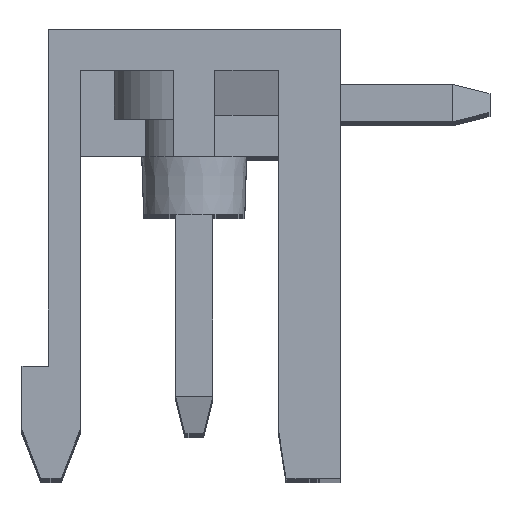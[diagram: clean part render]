
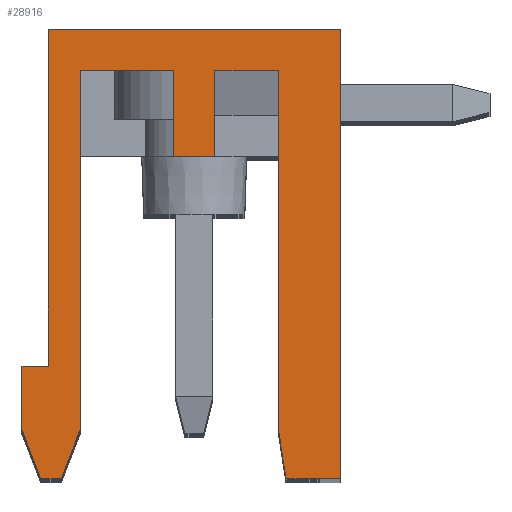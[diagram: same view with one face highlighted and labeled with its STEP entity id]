
A CAD part, top view. The second image highlights one B-rep face of the part: STEP entity #28916.
In plain terms, the highlighted planar face has unit normal (0, 0, 1).
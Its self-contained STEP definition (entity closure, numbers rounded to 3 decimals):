
#130 = CARTESIAN_POINT ( 'NONE',  ( -3.9, 12., 66.04 ) ) ;
#516 = EDGE_CURVE ( 'NONE', #10233, #29486, #24083, .T. ) ;
#526 = ORIENTED_EDGE ( 'NONE', *, *, #22341, .F. ) ;
#878 = ORIENTED_EDGE ( 'NONE', *, *, #7099, .T. ) ;
#993 = CARTESIAN_POINT ( 'NONE',  ( 0.55, 8.6, 66.04 ) ) ;
#1429 = ORIENTED_EDGE ( 'NONE', *, *, #7352, .T. ) ;
#1719 = DIRECTION ( 'NONE',  ( -1., 0., 0. ) ) ;
#1763 = CARTESIAN_POINT ( 'NONE',  ( -0.55, 10.9, 66.04 ) ) ;
#1899 = DIRECTION ( 'NONE',  ( -1., 0., 0. ) ) ;
#1931 = EDGE_CURVE ( 'NONE', #6937, #12073, #3518, .T. ) ;
#2378 = VERTEX_POINT ( 'NONE', #26846 ) ;
#2801 = CARTESIAN_POINT ( 'NONE',  ( 2.45, 0., 66.04 ) ) ;
#2916 = VECTOR ( 'NONE', #15964, 1000. ) ;
#3403 = VERTEX_POINT ( 'NONE', #7794 ) ;
#3518 = LINE ( 'NONE', #23313, #12688 ) ;
#4041 = EDGE_CURVE ( 'NONE', #22067, #17949, #16789, .T. ) ;
#4477 = CARTESIAN_POINT ( 'NONE',  ( 0.55, 8.6, 66.04 ) ) ;
#4580 = DIRECTION ( 'NONE',  ( -1., 0., 0. ) ) ;
#4751 = EDGE_CURVE ( 'NONE', #3403, #6937, #18384, .T. ) ;
#4870 = FACE_OUTER_BOUND ( 'NONE', #13254, .T. ) ;
#4995 = VECTOR ( 'NONE', #22535, 1000. ) ;
#4999 = VERTEX_POINT ( 'NONE', #32380 ) ;
#5282 = CARTESIAN_POINT ( 'NONE',  ( -3.55, 0., 66.04 ) ) ;
#5309 = ORIENTED_EDGE ( 'NONE', *, *, #4041, .F. ) ;
#5396 = CARTESIAN_POINT ( 'NONE',  ( 3.9, 0., 66.04 ) ) ;
#5421 = VECTOR ( 'NONE', #1719, 1000. ) ;
#5502 = DIRECTION ( 'NONE',  ( -1., 0., 0. ) ) ;
#5527 = DIRECTION ( 'NONE',  ( 0., -1., 0. ) ) ;
#5541 = VECTOR ( 'NONE', #17502, 1000. ) ;
#5832 = EDGE_CURVE ( 'NONE', #32498, #17949, #14765, .T. ) ;
#6026 = DIRECTION ( 'NONE',  ( 1., 0., 0. ) ) ;
#6160 = ORIENTED_EDGE ( 'NONE', *, *, #516, .T. ) ;
#6937 = VERTEX_POINT ( 'NONE', #26388 ) ;
#7099 = EDGE_CURVE ( 'NONE', #23866, #10288, #15258, .T. ) ;
#7127 = LINE ( 'NONE', #17179, #5541 ) ;
#7168 = VECTOR ( 'NONE', #6026, 1000. ) ;
#7222 = EDGE_CURVE ( 'NONE', #23137, #3403, #30770, .T. ) ;
#7352 = EDGE_CURVE ( 'NONE', #4999, #32498, #19214, .T. ) ;
#7794 = CARTESIAN_POINT ( 'NONE',  ( 2.25, 10.9, 66.04 ) ) ;
#7870 = ORIENTED_EDGE ( 'NONE', *, *, #11873, .F. ) ;
#8018 = CARTESIAN_POINT ( 'NONE',  ( -4.6, 1.3, 66.04 ) ) ;
#8382 = CARTESIAN_POINT ( 'NONE',  ( -4.1, 0., 66.04 ) ) ;
#8486 = DIRECTION ( 'NONE',  ( 1., 0., 0. ) ) ;
#9408 = ORIENTED_EDGE ( 'NONE', *, *, #5832, .T. ) ;
#9730 = CARTESIAN_POINT ( 'NONE',  ( 0.55, 10.9, 66.04 ) ) ;
#9792 = LINE ( 'NONE', #26935, #5421 ) ;
#10156 = CARTESIAN_POINT ( 'NONE',  ( 3.9, 12., 66.04 ) ) ;
#10233 = VERTEX_POINT ( 'NONE', #1763 ) ;
#10288 = VERTEX_POINT ( 'NONE', #10156 ) ;
#10298 = LINE ( 'NONE', #15549, #28140 ) ;
#11027 = CARTESIAN_POINT ( 'NONE',  ( -3.05, 1.3, 66.04 ) ) ;
#11544 = CARTESIAN_POINT ( 'NONE',  ( -0.55, 10.9, 66.04 ) ) ;
#11873 = EDGE_CURVE ( 'NONE', #2378, #13154, #10298, .T. ) ;
#12073 = VERTEX_POINT ( 'NONE', #2801 ) ;
#12575 = ORIENTED_EDGE ( 'NONE', *, *, #25582, .T. ) ;
#12688 = VECTOR ( 'NONE', #28098, 1000. ) ;
#12941 = CARTESIAN_POINT ( 'NONE',  ( 2.25, 10.9, 66.04 ) ) ;
#13154 = VERTEX_POINT ( 'NONE', #22496 ) ;
#13254 = EDGE_LOOP ( 'NONE', ( #878, #29806, #22900, #1429, #9408, #5309, #17439, #13680, #7870, #27604, #6160, #526, #28737, #18628, #18389, #17894, #12575 ) ) ;
#13498 = LINE ( 'NONE', #11027, #2916 ) ;
#13680 = ORIENTED_EDGE ( 'NONE', *, *, #32242, .F. ) ;
#14765 = LINE ( 'NONE', #27470, #4995 ) ;
#14947 = VECTOR ( 'NONE', #5527, 1000. ) ;
#15258 = LINE ( 'NONE', #17577, #23514 ) ;
#15549 = CARTESIAN_POINT ( 'NONE',  ( -3.05, 10.9, 66.04 ) ) ;
#15772 = LINE ( 'NONE', #23859, #23868 ) ;
#15964 = DIRECTION ( 'NONE',  ( -0.359, -0.933, 0. ) ) ;
#15987 = DIRECTION ( 'NONE',  ( 0., 1., 0. ) ) ;
#16029 = EDGE_CURVE ( 'NONE', #21349, #23137, #31008, .T. ) ;
#16789 = LINE ( 'NONE', #31971, #29125 ) ;
#17179 = CARTESIAN_POINT ( 'NONE',  ( -4.1, 0., 66.04 ) ) ;
#17407 = DIRECTION ( 'NONE',  ( 0., 1., 0. ) ) ;
#17439 = ORIENTED_EDGE ( 'NONE', *, *, #31757, .T. ) ;
#17502 = DIRECTION ( 'NONE',  ( 1., 0., 0. ) ) ;
#17577 = CARTESIAN_POINT ( 'NONE',  ( 3.9, 0., 66.04 ) ) ;
#17894 = ORIENTED_EDGE ( 'NONE', *, *, #1931, .T. ) ;
#17949 = VERTEX_POINT ( 'NONE', #8018 ) ;
#18384 = LINE ( 'NONE', #12941, #14947 ) ;
#18389 = ORIENTED_EDGE ( 'NONE', *, *, #4751, .T. ) ;
#18628 = ORIENTED_EDGE ( 'NONE', *, *, #7222, .T. ) ;
#19045 = CARTESIAN_POINT ( 'NONE',  ( -3.9, 3., 66.04 ) ) ;
#19095 = EDGE_CURVE ( 'NONE', #10233, #2378, #19750, .T. ) ;
#19138 = VECTOR ( 'NONE', #8486, 1000. ) ;
#19214 = LINE ( 'NONE', #19045, #21918 ) ;
#19724 = PLANE ( 'NONE',  #30160 ) ;
#19750 = LINE ( 'NONE', #29796, #20491 ) ;
#20046 = DIRECTION ( 'NONE',  ( 0., 0., 1. ) ) ;
#20239 = CARTESIAN_POINT ( 'NONE',  ( -4.6, 3., 66.04 ) ) ;
#20491 = VECTOR ( 'NONE', #4580, 1000. ) ;
#21032 = LINE ( 'NONE', #31082, #19138 ) ;
#21349 = VERTEX_POINT ( 'NONE', #4477 ) ;
#21610 = DIRECTION ( 'NONE',  ( 0., -1., 0. ) ) ;
#21918 = VECTOR ( 'NONE', #1899, 1000. ) ;
#22067 = VERTEX_POINT ( 'NONE', #8382 ) ;
#22341 = EDGE_CURVE ( 'NONE', #21349, #29486, #27770, .T. ) ;
#22491 = CARTESIAN_POINT ( 'NONE',  ( -0.55, 8.6, 66.04 ) ) ;
#22496 = CARTESIAN_POINT ( 'NONE',  ( -3.05, 1.3, 66.04 ) ) ;
#22504 = DIRECTION ( 'NONE',  ( 0., -1., 0. ) ) ;
#22535 = DIRECTION ( 'NONE',  ( 0., -1., 0. ) ) ;
#22900 = ORIENTED_EDGE ( 'NONE', *, *, #25169, .T. ) ;
#23137 = VERTEX_POINT ( 'NONE', #9730 ) ;
#23313 = CARTESIAN_POINT ( 'NONE',  ( 2.25, 1.3, 66.04 ) ) ;
#23514 = VECTOR ( 'NONE', #17407, 1000. ) ;
#23859 = CARTESIAN_POINT ( 'NONE',  ( -3.9, 12., 66.04 ) ) ;
#23866 = VERTEX_POINT ( 'NONE', #5396 ) ;
#23868 = VECTOR ( 'NONE', #28964, 1000. ) ;
#24083 = LINE ( 'NONE', #11544, #24290 ) ;
#24290 = VECTOR ( 'NONE', #21610, 1000. ) ;
#25169 = EDGE_CURVE ( 'NONE', #28607, #4999, #15772, .T. ) ;
#25582 = EDGE_CURVE ( 'NONE', #12073, #23866, #21032, .T. ) ;
#25669 = CARTESIAN_POINT ( 'NONE',  ( 0.55, 10.9, 66.04 ) ) ;
#25835 = VERTEX_POINT ( 'NONE', #5282 ) ;
#26388 = CARTESIAN_POINT ( 'NONE',  ( 2.25, 1.3, 66.04 ) ) ;
#26823 = DIRECTION ( 'NONE',  ( 1., 0., 0. ) ) ;
#26846 = CARTESIAN_POINT ( 'NONE',  ( -3.05, 10.9, 66.04 ) ) ;
#26883 = VECTOR ( 'NONE', #5502, 1000. ) ;
#26935 = CARTESIAN_POINT ( 'NONE',  ( 3.9, 12., 66.04 ) ) ;
#27470 = CARTESIAN_POINT ( 'NONE',  ( -4.6, 3., 66.04 ) ) ;
#27604 = ORIENTED_EDGE ( 'NONE', *, *, #19095, .F. ) ;
#27770 = LINE ( 'NONE', #30069, #26883 ) ;
#28098 = DIRECTION ( 'NONE',  ( 0.152, -0.988, 0. ) ) ;
#28140 = VECTOR ( 'NONE', #22504, 1000. ) ;
#28607 = VERTEX_POINT ( 'NONE', #130 ) ;
#28737 = ORIENTED_EDGE ( 'NONE', *, *, #16029, .T. ) ;
#28916 = ADVANCED_FACE ( 'NONE', ( #4870 ), #19724, .T. ) ;
#28964 = DIRECTION ( 'NONE',  ( 0., -1., 0. ) ) ;
#29125 = VECTOR ( 'NONE', #29967, 1000. ) ;
#29268 = EDGE_CURVE ( 'NONE', #10288, #28607, #9792, .T. ) ;
#29486 = VERTEX_POINT ( 'NONE', #22491 ) ;
#29776 = CARTESIAN_POINT ( 'NONE',  ( -10.2, 16.267, 66.04 ) ) ;
#29796 = CARTESIAN_POINT ( 'NONE',  ( -0.55, 10.9, 66.04 ) ) ;
#29806 = ORIENTED_EDGE ( 'NONE', *, *, #29268, .T. ) ;
#29967 = DIRECTION ( 'NONE',  ( -0.359, 0.933, 0. ) ) ;
#30069 = CARTESIAN_POINT ( 'NONE',  ( 0.55, 8.6, 66.04 ) ) ;
#30160 = AXIS2_PLACEMENT_3D ( 'NONE', #29776, #20046, #26823 ) ;
#30346 = VECTOR ( 'NONE', #15987, 1000. ) ;
#30770 = LINE ( 'NONE', #25669, #7168 ) ;
#31008 = LINE ( 'NONE', #993, #30346 ) ;
#31082 = CARTESIAN_POINT ( 'NONE',  ( 2.45, 0., 66.04 ) ) ;
#31757 = EDGE_CURVE ( 'NONE', #22067, #25835, #7127, .T. ) ;
#31971 = CARTESIAN_POINT ( 'NONE',  ( -4.1, 0., 66.04 ) ) ;
#32242 = EDGE_CURVE ( 'NONE', #13154, #25835, #13498, .T. ) ;
#32380 = CARTESIAN_POINT ( 'NONE',  ( -3.9, 3., 66.04 ) ) ;
#32498 = VERTEX_POINT ( 'NONE', #20239 ) ;
